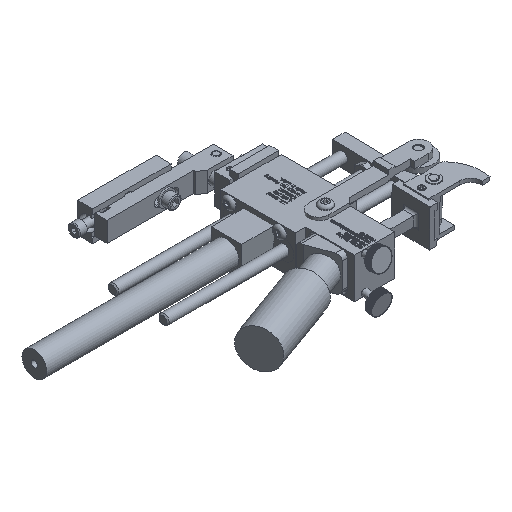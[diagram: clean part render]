
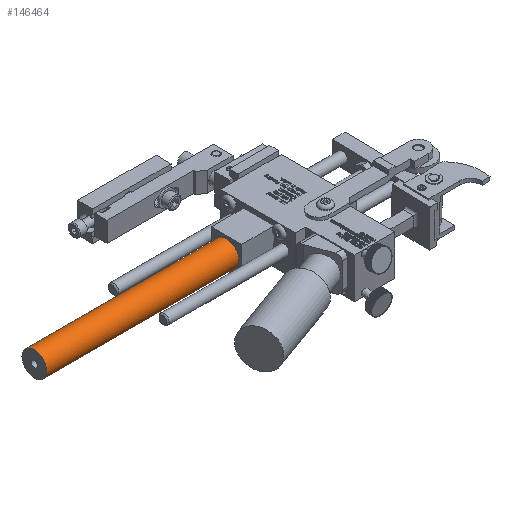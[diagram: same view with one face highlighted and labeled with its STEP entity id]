
A CAD part, isometric view. The second image highlights one B-rep face of the part: STEP entity #146464.
In plain terms, the highlighted cylindrical face has radius 7.747 mm (diameter 15.494 mm), a full revolution.
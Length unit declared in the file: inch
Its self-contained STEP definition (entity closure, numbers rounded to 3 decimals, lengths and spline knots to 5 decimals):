
#146437=CARTESIAN_POINT('',(0.2202,0.36387,0.375));
#146438=DIRECTION('',(1.0,0.,0.0));
#146439=DIRECTION('',(0.0,0.0,1.0));
#146440=AXIS2_PLACEMENT_3D('',#146437,#146438,#146439);
#146441=CYLINDRICAL_SURFACE('',#146440,0.305);
#146442=CARTESIAN_POINT('',(4.9702,0.36387,0.07));
#146443=VERTEX_POINT('',#146442);
#146444=CARTESIAN_POINT('',(4.9702,0.36387,0.375));
#146445=DIRECTION('',(-1.0,0.0,0.0));
#146446=DIRECTION('',(0.0,0.0,1.0));
#146447=AXIS2_PLACEMENT_3D('',#146444,#146445,#146446);
#146448=CIRCLE('',#146447,0.305);
#146449=EDGE_CURVE('',#146443,#146443,#146448,.T.);
#146450=ORIENTED_EDGE('',*,*,#146449,.T.);
#146451=EDGE_LOOP('',(#146450));
#146452=FACE_OUTER_BOUND('',#146451,.T.);
#146453=CARTESIAN_POINT('',(0.2202,0.36387,0.07));
#146454=VERTEX_POINT('',#146453);
#146455=CARTESIAN_POINT('',(0.2202,0.36387,0.375));
#146456=DIRECTION('',(-1.0,0.0,0.0));
#146457=DIRECTION('',(0.0,0.0,1.0));
#146458=AXIS2_PLACEMENT_3D('',#146455,#146456,#146457);
#146459=CIRCLE('',#146458,0.305);
#146460=EDGE_CURVE('',#146454,#146454,#146459,.T.);
#146461=ORIENTED_EDGE('',*,*,#146460,.F.);
#146462=EDGE_LOOP('',(#146461));
#146463=FACE_BOUND('',#146462,.T.);
#146464=ADVANCED_FACE('',(#146452,#146463),#146441,.T.);
